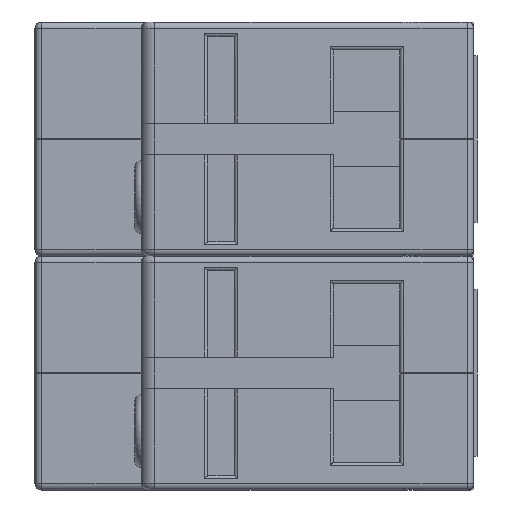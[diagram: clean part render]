
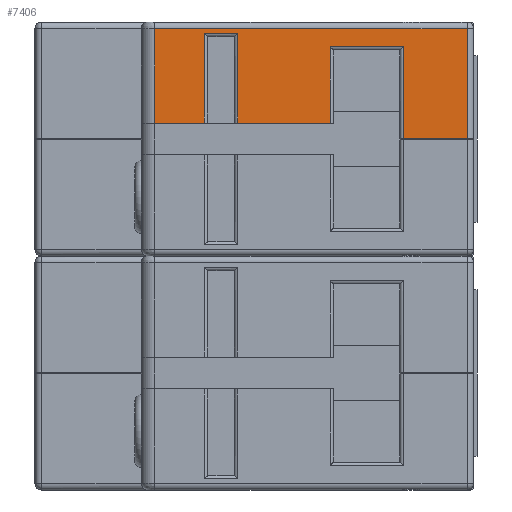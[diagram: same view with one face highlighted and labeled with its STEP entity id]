
A CAD part, left-side view. The second image highlights one B-rep face of the part: STEP entity #7406.
In plain terms, the highlighted planar face has unit normal (-1, 0, 0).
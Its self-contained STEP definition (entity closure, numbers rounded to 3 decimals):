
#118=FACE_BOUND('',#2667,.T.);
#417=LINE('',#11059,#1244);
#419=LINE('',#11065,#1246);
#422=LINE('',#11073,#1249);
#423=LINE('',#11075,#1250);
#424=LINE('',#11077,#1251);
#425=LINE('',#11079,#1252);
#426=LINE('',#11081,#1253);
#427=LINE('',#11082,#1254);
#428=LINE('',#11085,#1255);
#429=LINE('',#11087,#1256);
#430=LINE('',#11089,#1257);
#431=LINE('',#11090,#1258);
#1244=VECTOR('',#8815,10.);
#1246=VECTOR('',#8821,10.);
#1249=VECTOR('',#8830,10.);
#1250=VECTOR('',#8831,10.);
#1251=VECTOR('',#8832,10.);
#1252=VECTOR('',#8833,10.);
#1253=VECTOR('',#8834,10.);
#1254=VECTOR('',#8835,10.);
#1255=VECTOR('',#8836,10.);
#1256=VECTOR('',#8837,10.);
#1257=VECTOR('',#8838,10.);
#1258=VECTOR('',#8839,10.);
#1968=PLANE('',#7926);
#2255=FACE_OUTER_BOUND('',#2666,.T.);
#2666=EDGE_LOOP('',(#5370,#5371,#5372,#5373,#5374,#5375,#5376,#5377));
#2667=EDGE_LOOP('',(#5378,#5379,#5380,#5381));
#3412=VERTEX_POINT('',#11056);
#3413=VERTEX_POINT('',#11058);
#3415=VERTEX_POINT('',#11064);
#3417=VERTEX_POINT('',#11072);
#3418=VERTEX_POINT('',#11074);
#3419=VERTEX_POINT('',#11076);
#3420=VERTEX_POINT('',#11078);
#3421=VERTEX_POINT('',#11080);
#3422=VERTEX_POINT('',#11083);
#3423=VERTEX_POINT('',#11084);
#3424=VERTEX_POINT('',#11086);
#3425=VERTEX_POINT('',#11088);
#4164=EDGE_CURVE('',#3412,#3413,#417,.T.);
#4167=EDGE_CURVE('',#3415,#3413,#419,.T.);
#4172=EDGE_CURVE('',#3412,#3417,#422,.T.);
#4173=EDGE_CURVE('',#3417,#3418,#423,.T.);
#4174=EDGE_CURVE('',#3418,#3419,#424,.T.);
#4175=EDGE_CURVE('',#3420,#3419,#425,.T.);
#4176=EDGE_CURVE('',#3421,#3420,#426,.T.);
#4177=EDGE_CURVE('',#3415,#3421,#427,.T.);
#4178=EDGE_CURVE('',#3422,#3423,#428,.T.);
#4179=EDGE_CURVE('',#3424,#3422,#429,.T.);
#4180=EDGE_CURVE('',#3425,#3424,#430,.T.);
#4181=EDGE_CURVE('',#3423,#3425,#431,.T.);
#5370=ORIENTED_EDGE('',*,*,#4164,.F.);
#5371=ORIENTED_EDGE('',*,*,#4172,.T.);
#5372=ORIENTED_EDGE('',*,*,#4173,.T.);
#5373=ORIENTED_EDGE('',*,*,#4174,.T.);
#5374=ORIENTED_EDGE('',*,*,#4175,.F.);
#5375=ORIENTED_EDGE('',*,*,#4176,.F.);
#5376=ORIENTED_EDGE('',*,*,#4177,.F.);
#5377=ORIENTED_EDGE('',*,*,#4167,.T.);
#5378=ORIENTED_EDGE('',*,*,#4178,.F.);
#5379=ORIENTED_EDGE('',*,*,#4179,.F.);
#5380=ORIENTED_EDGE('',*,*,#4180,.F.);
#5381=ORIENTED_EDGE('',*,*,#4181,.F.);
#7406=ADVANCED_FACE('',(#2255,#118),#1968,.T.);
#7926=AXIS2_PLACEMENT_3D('',#11071,#8828,#8829);
#8815=DIRECTION('',(0.,0.,-1.));
#8821=DIRECTION('',(0.,-1.,0.));
#8828=DIRECTION('center_axis',(-1.,0.,0.));
#8829=DIRECTION('ref_axis',(0.,-1.,0.));
#8830=DIRECTION('',(0.,-1.,0.));
#8831=DIRECTION('',(0.,0.,-1.));
#8832=DIRECTION('',(0.,-1.,0.));
#8833=DIRECTION('',(0.,0.,-1.));
#8834=DIRECTION('',(0.,-1.,0.));
#8835=DIRECTION('',(0.,0.,1.));
#8836=DIRECTION('',(0.,-1.,0.));
#8837=DIRECTION('',(0.,0.,-1.));
#8838=DIRECTION('',(0.,1.,0.));
#8839=DIRECTION('',(0.,0.,1.));
#11056=CARTESIAN_POINT('',(0.,21.6,31.5));
#11058=CARTESIAN_POINT('',(0.,21.6,19.925));
#11059=CARTESIAN_POINT('',(0.,21.6,15.5));
#11064=CARTESIAN_POINT('',(0.,48.,19.925));
#11065=CARTESIAN_POINT('',(0.,35.8,19.925));
#11071=CARTESIAN_POINT('Origin',(0.,50.,0.));
#11072=CARTESIAN_POINT('',(0.,10.6,31.5));
#11073=CARTESIAN_POINT('',(0.,30.55,31.5));
#11074=CARTESIAN_POINT('',(0.,10.6,17.625));
#11075=CARTESIAN_POINT('',(0.,10.6,10.85));
#11076=CARTESIAN_POINT('',(0.,1.,17.625));
#11077=CARTESIAN_POINT('',(0.,41.725,17.625));
#11078=CARTESIAN_POINT('',(0.,1.,34.2));
#11079=CARTESIAN_POINT('',(0.,1.,0.));
#11080=CARTESIAN_POINT('',(0.,48.,34.2));
#11081=CARTESIAN_POINT('',(0.,40.001,34.2));
#11082=CARTESIAN_POINT('',(0.,48.,0.));
#11083=CARTESIAN_POINT('',(0.,40.5,20.));
#11084=CARTESIAN_POINT('',(0.,35.5,20.));
#11085=CARTESIAN_POINT('',(0.,45.,20.));
#11086=CARTESIAN_POINT('',(0.,40.5,33.5));
#11087=CARTESIAN_POINT('',(0.,40.5,16.5));
#11088=CARTESIAN_POINT('',(0.,35.5,33.5));
#11089=CARTESIAN_POINT('',(0.,43.,33.5));
#11090=CARTESIAN_POINT('',(0.,35.5,10.));
